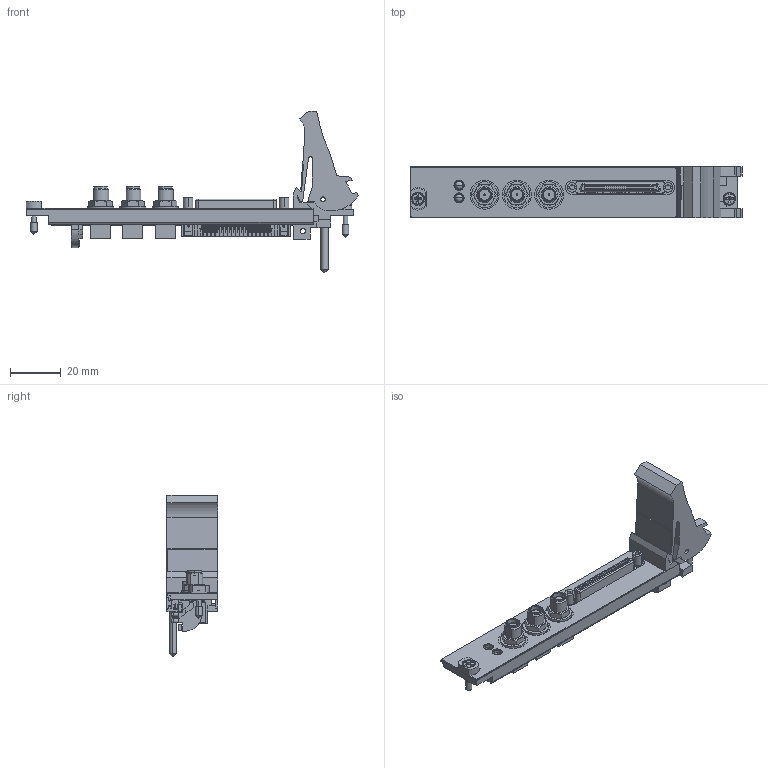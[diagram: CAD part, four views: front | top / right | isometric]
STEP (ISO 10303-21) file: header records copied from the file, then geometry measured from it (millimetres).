
FILE_DESCRIPTION((''),'2;1');
FILE_NAME('CU_PXIE-654X','2009-12-28T',('jjorden'),(''),'PRO/ENGINEER BY PARAMETRIC TECHNOLOGY CORPORATION, 2006080','PRO/ENGINEER BY PARAMETRIC TECHNOLOGY CORPORATION, 2006080','');
FILE_SCHEMA(('CONFIG_CONTROL_DESIGN'));
Products named in the file (1): CU_PXIE-654X
Bounding box: 130.5 x 20.31 x 63.53 mm (x, y, z)
Volume: 19356.7 mm3; surface area: 21340.6 mm2
Topology: 5 solids, 5 shells, 2436 faces, 6600 edges, 4285 vertices
Faces by surface type: plane 1850, cylinder 476, cone 52, torus 46, sphere 8, bspline 4
Entity records: 77715 total; most frequent: CARTESIAN_POINT 14955, ORIENTED_EDGE 13184, DIRECTION 12630, EDGE_CURVE 6592, VECTOR 5256, LINE 5256, VERTEX_POINT 4285, AXIS2_PLACEMENT_3D 3687
